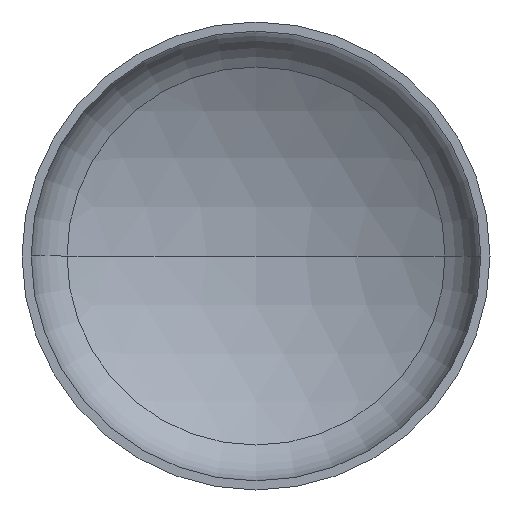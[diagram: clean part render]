
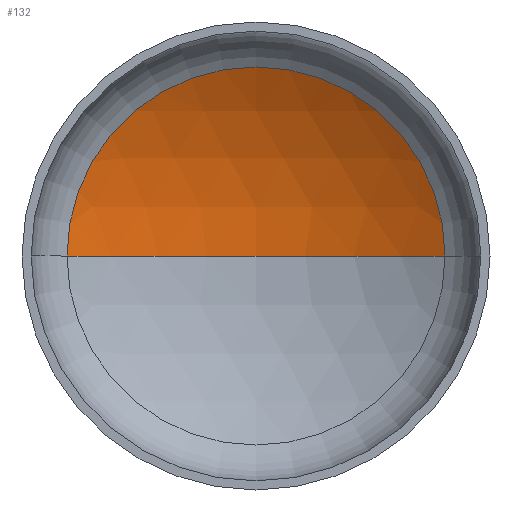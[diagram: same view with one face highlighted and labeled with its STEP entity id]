
A CAD part, front view. The second image highlights one B-rep face of the part: STEP entity #132.
In plain terms, the highlighted spherical face has radius 3600 mm.
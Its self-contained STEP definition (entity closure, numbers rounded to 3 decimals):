
#10 = AXIS2_PLACEMENT_3D ( 'NONE', #95, #120, #116 ) ;
#11 = AXIS2_PLACEMENT_3D ( 'NONE', #63, #351, #247 ) ;
#24 = CARTESIAN_POINT ( 'NONE',  ( 1817.969, 699.871, 0. ) ) ;
#25 = AXIS2_PLACEMENT_3D ( 'NONE', #315, #168, #344 ) ;
#34 = EDGE_LOOP ( 'NONE', ( #159, #136, #93 ) ) ;
#40 = AXIS2_PLACEMENT_3D ( 'NONE', #213, #195, #200 ) ;
#63 = CARTESIAN_POINT ( 'NONE',  ( 0., 699.871, 0. ) ) ;
#90 = CIRCLE ( 'NONE', #11, 1817.969 ) ;
#93 = ORIENTED_EDGE ( 'NONE', *, *, #365, .T. ) ;
#95 = CARTESIAN_POINT ( 'NONE',  ( 0., -2407.376, 0. ) ) ;
#116 = DIRECTION ( 'NONE',  ( -1., 0., 0. ) ) ;
#120 = DIRECTION ( 'NONE',  ( 0., 0., -1. ) ) ;
#132 = ADVANCED_FACE ( 'NONE', ( #291 ), #163, .F. ) ;
#136 = ORIENTED_EDGE ( 'NONE', *, *, #367, .T. ) ;
#138 = VERTEX_POINT ( 'NONE', #166 ) ;
#142 = VERTEX_POINT ( 'NONE', #223 ) ;
#159 = ORIENTED_EDGE ( 'NONE', *, *, #349, .F. ) ;
#163 = SPHERICAL_SURFACE ( 'NONE', #40, 3600. ) ;
#166 = CARTESIAN_POINT ( 'NONE',  ( -1817.969, 699.871, 0. ) ) ;
#168 = DIRECTION ( 'NONE',  ( 0., 0., 1. ) ) ;
#195 = DIRECTION ( 'NONE',  ( 0., 0., -1. ) ) ;
#197 = VERTEX_POINT ( 'NONE', #24 ) ;
#200 = DIRECTION ( 'NONE',  ( -1., 0., 0. ) ) ;
#210 = CIRCLE ( 'NONE', #25, 3600. ) ;
#213 = CARTESIAN_POINT ( 'NONE',  ( 0., -2407.376, 0. ) ) ;
#223 = CARTESIAN_POINT ( 'NONE',  ( 0., 1192.624, 0. ) ) ;
#247 = DIRECTION ( 'NONE',  ( 1., 0., 0. ) ) ;
#291 = FACE_OUTER_BOUND ( 'NONE', #34, .T. ) ;
#315 = CARTESIAN_POINT ( 'NONE',  ( 0., -2407.376, 0. ) ) ;
#325 = CIRCLE ( 'NONE', #10, 3600. ) ;
#344 = DIRECTION ( 'NONE',  ( 1., 0., 0. ) ) ;
#349 = EDGE_CURVE ( 'NONE', #142, #138, #210, .T. ) ;
#351 = DIRECTION ( 'NONE',  ( 0., -1., 0. ) ) ;
#365 = EDGE_CURVE ( 'NONE', #197, #138, #90, .T. ) ;
#367 = EDGE_CURVE ( 'NONE', #142, #197, #325, .T. ) ;
